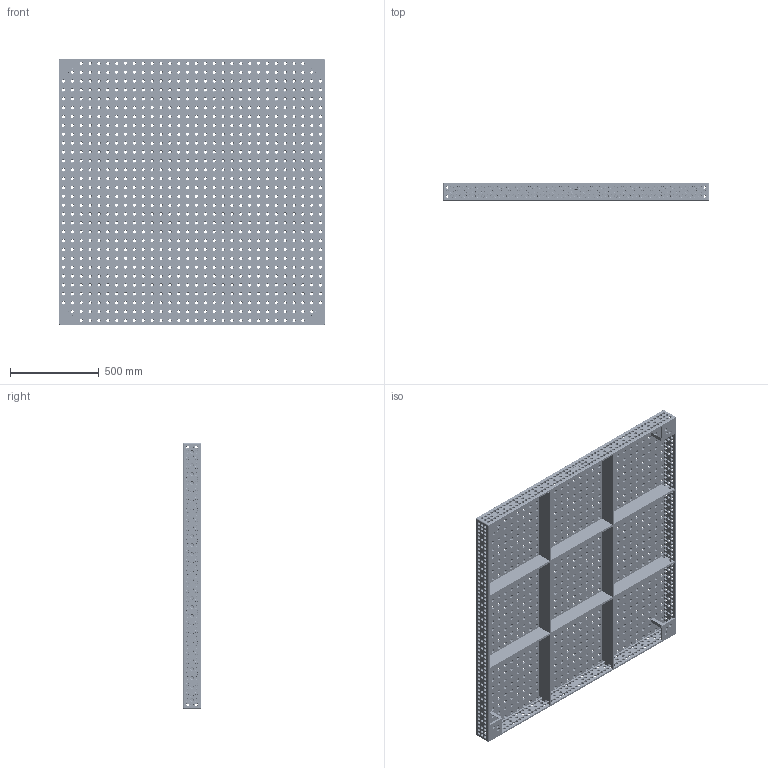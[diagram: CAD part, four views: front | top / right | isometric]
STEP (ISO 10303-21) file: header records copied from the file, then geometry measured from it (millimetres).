
FILE_DESCRIPTION (( 'STEP AP203' ), '1' );
FILE_NAME ('160050.X7D.T1 - 16003137_16003137_16003138_16001995_______.step', '2022-06-07T13:19:33', ( '' ), ( '' ), 'SwSTEP 2.0', 'SolidWorks 2020', '' );
FILE_SCHEMA (( 'CONFIG_CONTROL_DESIGN' ));
Products named in the file (1): 160050.X7D.T1 - 16003137_16003137_16003138_16001995_______
Bounding box: 1500 x 100 x 1500 mm (x, y, z)
Volume: 35796923.3 mm3; surface area: 6859346.5 mm2
Topology: 1 solids, 1 shells, 9231 faces, 21660 edges, 12416 vertices
Faces by surface type: cone 3052, cylinder 3044, torus 3004, plane 123, bspline 8
Entity records: 272803 total; most frequent: DIRECTION 55240, CARTESIAN_POINT 44548, ORIENTED_EDGE 43320, AXIS2_PLACEMENT_3D 24372, EDGE_CURVE 21660, CIRCLE 15148, VERTEX_POINT 12416, EDGE_LOOP 12280
